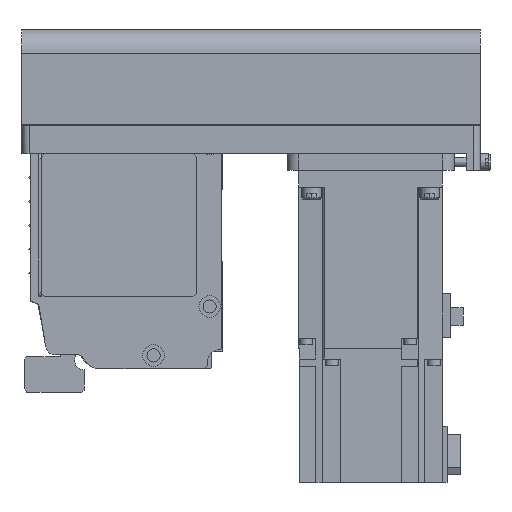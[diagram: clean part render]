
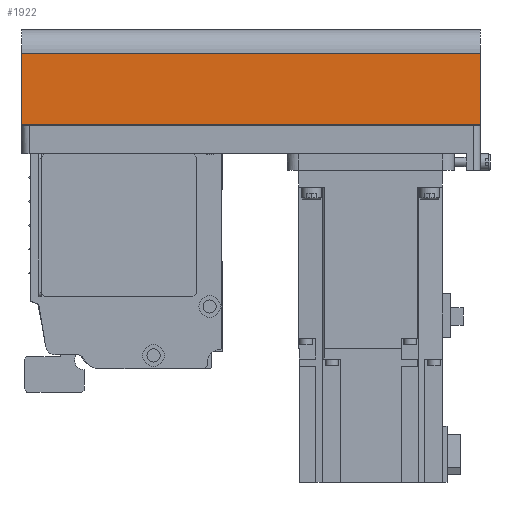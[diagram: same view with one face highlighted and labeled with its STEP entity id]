
A CAD part, left-side view. The second image highlights one B-rep face of the part: STEP entity #1922.
In plain terms, the highlighted planar face has unit normal (-1, 0, 0) as drawn and (0, -1, 0) by its records, which use the part's own axes.
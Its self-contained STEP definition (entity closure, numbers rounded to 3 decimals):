
#1922 = ADVANCED_FACE( '', ( #4063 ), #4064, .T. );
#4063 = FACE_OUTER_BOUND( '', #6383, .T. );
#4064 = PLANE( '', #6384 );
#6383 = EDGE_LOOP( '', ( #11680, #11681, #11682, #11683 ) );
#6384 = AXIS2_PLACEMENT_3D( '', #11684, #11685, #11686 );
#11680 = ORIENTED_EDGE( '', *, *, #15406, .F. );
#11681 = ORIENTED_EDGE( '', *, *, #14537, .F. );
#11682 = ORIENTED_EDGE( '', *, *, #14546, .T. );
#11683 = ORIENTED_EDGE( '', *, *, #13589, .T. );
#11684 = CARTESIAN_POINT( '', ( -192., -40., -12.1 ) );
#11685 = DIRECTION( '', ( 0., -1., 0. ) );
#11686 = DIRECTION( '', ( 0., 0., -1. ) );
#13589 = EDGE_CURVE( '', #16291, #16288, #16292, .T. );
#14537 = EDGE_CURVE( '', #17847, #17849, #17850, .T. );
#14546 = EDGE_CURVE( '', #17847, #16291, #17864, .T. );
#15406 = EDGE_CURVE( '', #17849, #16288, #19003, .T. );
#16288 = VERTEX_POINT( '', #20082 );
#16291 = VERTEX_POINT( '', #20085 );
#16292 = LINE( '', #20086, #20087 );
#17847 = VERTEX_POINT( '', #22194 );
#17849 = VERTEX_POINT( '', #22197 );
#17850 = LINE( '', #22198, #22199 );
#17864 = LINE( '', #22219, #22220 );
#19003 = LINE( '', #23752, #23753 );
#20082 = CARTESIAN_POINT( '', ( 0., -40., -42. ) );
#20085 = CARTESIAN_POINT( '', ( -192., -40., -42. ) );
#20086 = CARTESIAN_POINT( '', ( -192., -40., -42. ) );
#20087 = VECTOR( '', #24597, 1000. );
#22194 = CARTESIAN_POINT( '', ( -192., -40., -12.1 ) );
#22197 = CARTESIAN_POINT( '', ( 0., -40., -12.1 ) );
#22198 = CARTESIAN_POINT( '', ( -192., -40., -12.1 ) );
#22199 = VECTOR( '', #25811, 1000. );
#22219 = CARTESIAN_POINT( '', ( -192., -40., -12.1 ) );
#22220 = VECTOR( '', #25821, 1000. );
#23752 = CARTESIAN_POINT( '', ( 0., -40., -12.1 ) );
#23753 = VECTOR( '', #26740, 1000. );
#24597 = DIRECTION( '', ( 1., 0., 0. ) );
#25811 = DIRECTION( '', ( 1., 0., 0. ) );
#25821 = DIRECTION( '', ( 0., 0., -1. ) );
#26740 = DIRECTION( '', ( 0., 0., -1. ) );
